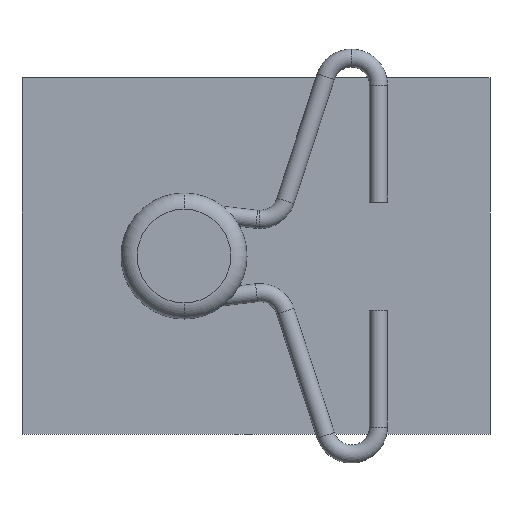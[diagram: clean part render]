
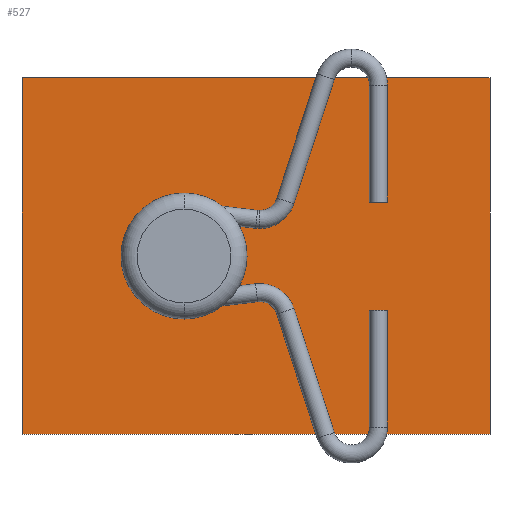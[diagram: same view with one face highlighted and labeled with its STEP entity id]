
A CAD part, front view. The second image highlights one B-rep face of the part: STEP entity #527.
In plain terms, the highlighted planar face has unit normal (0, -1, 0).
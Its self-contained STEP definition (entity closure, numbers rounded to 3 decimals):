
#29 = EDGE_LOOP ( 'NONE', ( #2055, #1208 ) ) ;
#49 = DIRECTION ( 'NONE',  ( 0., 0., 1. ) ) ;
#65 = EDGE_CURVE ( 'NONE', #1909, #638, #1816, .T. ) ;
#105 = CARTESIAN_POINT ( 'NONE',  ( 0., -0.5, -9.9 ) ) ;
#122 = CARTESIAN_POINT ( 'NONE',  ( 0., -0.5, 9.9 ) ) ;
#196 = ORIENTED_EDGE ( 'NONE', *, *, #252, .F. ) ;
#205 = CARTESIAN_POINT ( 'NONE',  ( -17., -0.5, 0. ) ) ;
#252 = EDGE_CURVE ( 'NONE', #1480, #971, #632, .T. ) ;
#275 = FACE_OUTER_BOUND ( 'NONE', #942, .T. ) ;
#424 = ORIENTED_EDGE ( 'NONE', *, *, #906, .F. ) ;
#489 = CARTESIAN_POINT ( 'NONE',  ( 0., -0.5, -9.9 ) ) ;
#494 = EDGE_CURVE ( 'NONE', #971, #1001, #1555, .T. ) ;
#495 = DIRECTION ( 'NONE',  ( -1., 0., 0. ) ) ;
#527 = ADVANCED_FACE ( 'NONE', ( #1505, #275 ), #645, .F. ) ;
#569 = CARTESIAN_POINT ( 'NONE',  ( 0., -0.5, 9.9 ) ) ;
#570 = DIRECTION ( 'NONE',  ( 1., 0., 0. ) ) ;
#588 = VECTOR ( 'NONE', #570, 1000. ) ;
#623 = AXIS2_PLACEMENT_3D ( 'NONE', #1677, #1620, #1517 ) ;
#632 = LINE ( 'NONE', #122, #1019 ) ;
#638 = VERTEX_POINT ( 'NONE', #739 ) ;
#645 = PLANE ( 'NONE',  #623 ) ;
#653 = VECTOR ( 'NONE', #495, 1000. ) ;
#691 = DIRECTION ( 'NONE',  ( 0., 0., 1. ) ) ;
#700 = DIRECTION ( 'NONE',  ( 0., 1., 0. ) ) ;
#708 = CARTESIAN_POINT ( 'NONE',  ( -17., -0.5, 0. ) ) ;
#739 = CARTESIAN_POINT ( 'NONE',  ( -17., -0.5, 1.95 ) ) ;
#904 = AXIS2_PLACEMENT_3D ( 'NONE', #708, #700, #691 ) ;
#906 = EDGE_CURVE ( 'NONE', #1001, #1626, #2074, .T. ) ;
#917 = ORIENTED_EDGE ( 'NONE', *, *, #494, .F. ) ;
#942 = EDGE_LOOP ( 'NONE', ( #917, #196, #1223, #424 ) ) ;
#971 = VERTEX_POINT ( 'NONE', #105 ) ;
#1001 = VERTEX_POINT ( 'NONE', #1959 ) ;
#1007 = EDGE_CURVE ( 'NONE', #1626, #1480, #1942, .T. ) ;
#1019 = VECTOR ( 'NONE', #2155, 1000. ) ;
#1197 = VECTOR ( 'NONE', #1420, 1000. ) ;
#1208 = ORIENTED_EDGE ( 'NONE', *, *, #65, .T. ) ;
#1223 = ORIENTED_EDGE ( 'NONE', *, *, #1007, .F. ) ;
#1384 = DIRECTION ( 'NONE',  ( 0., 1., 0. ) ) ;
#1404 = CARTESIAN_POINT ( 'NONE',  ( -26., -0.5, -9.9 ) ) ;
#1420 = DIRECTION ( 'NONE',  ( 0., 0., 1. ) ) ;
#1458 = EDGE_CURVE ( 'NONE', #638, #1909, #2009, .T. ) ;
#1480 = VERTEX_POINT ( 'NONE', #569 ) ;
#1505 = FACE_BOUND ( 'NONE', #29, .T. ) ;
#1517 = DIRECTION ( 'NONE',  ( 0., 0., 1. ) ) ;
#1543 = CARTESIAN_POINT ( 'NONE',  ( -26., -0.5, 9.9 ) ) ;
#1555 = LINE ( 'NONE', #489, #653 ) ;
#1620 = DIRECTION ( 'NONE',  ( 0., 1., 0. ) ) ;
#1626 = VERTEX_POINT ( 'NONE', #1543 ) ;
#1677 = CARTESIAN_POINT ( 'NONE',  ( 0., -0.5, 0. ) ) ;
#1804 = CARTESIAN_POINT ( 'NONE',  ( -17., -0.5, -1.95 ) ) ;
#1816 = CIRCLE ( 'NONE', #1906, 1.95 ) ;
#1880 = CARTESIAN_POINT ( 'NONE',  ( 0., -0.5, 9.9 ) ) ;
#1906 = AXIS2_PLACEMENT_3D ( 'NONE', #205, #1384, #49 ) ;
#1909 = VERTEX_POINT ( 'NONE', #1804 ) ;
#1942 = LINE ( 'NONE', #1880, #588 ) ;
#1959 = CARTESIAN_POINT ( 'NONE',  ( -26., -0.5, -9.9 ) ) ;
#2009 = CIRCLE ( 'NONE', #904, 1.95 ) ;
#2055 = ORIENTED_EDGE ( 'NONE', *, *, #1458, .T. ) ;
#2074 = LINE ( 'NONE', #1404, #1197 ) ;
#2155 = DIRECTION ( 'NONE',  ( 0., 0., -1. ) ) ;
